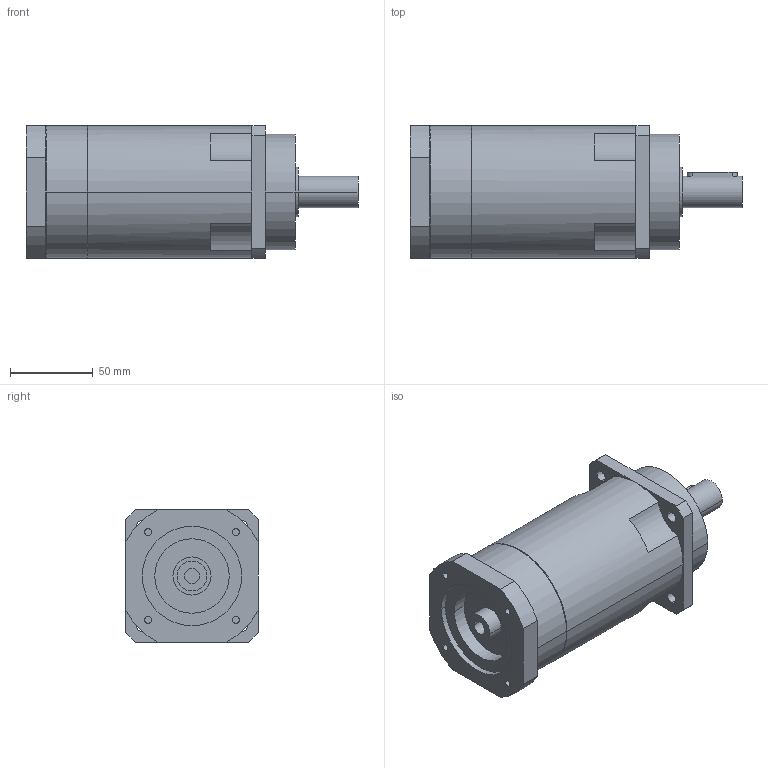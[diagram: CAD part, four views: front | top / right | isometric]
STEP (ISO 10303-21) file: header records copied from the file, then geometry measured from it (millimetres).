
FILE_DESCRIPTION(('CoCreate Modeling STEP Export'),'2;1');
FILE_NAME('GPR100_ig-48-64-80-100-120-144-180-216_19_B5_9_P23.stp','2014-08-26T13:05:24',(''),(''),'CoCreate Modeling STEP processor for AP214 (Solid Model)','CoCreate Modeling 16.00C 25-Feb-2009 (C) Parametric Technology GmbH','');
FILE_SCHEMA(('AUTOMOTIVE_DESIGN { 1 0 10303 214 1 1 1 1 }'));
Length unit declared in the file: millimetre
Products named in the file (2): GPR100_ig-48-64-80-100-120-144-180-216_19_B5_9_P23
Assembly tree (1 placements, depth 2):
  GPR100_ig-48-64-80-100-120-144-180-216_19_B5_9_P23
    GPR100_ig-48-64-80-100-120-144-180-216_19_B5_9_P23
Bounding box: 200.4 x 80 x 80 mm (x, y, z)
Volume: 793455.4 mm3; surface area: 63168.5 mm2
Topology: 1 solids, 1 shells, 93 faces, 245 edges, 167 vertices
Faces by surface type: cylinder 52, plane 35, cone 6
Entity records: 2606 total; most frequent: ORIENTED_EDGE 486, CARTESIAN_POINT 472, DIRECTION 386, EDGE_CURVE 243, VERTEX_POINT 167, AXIS2_PLACEMENT_3D 145, EDGE_LOOP 116, VECTOR 96
